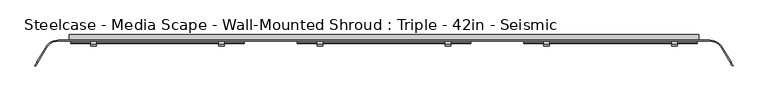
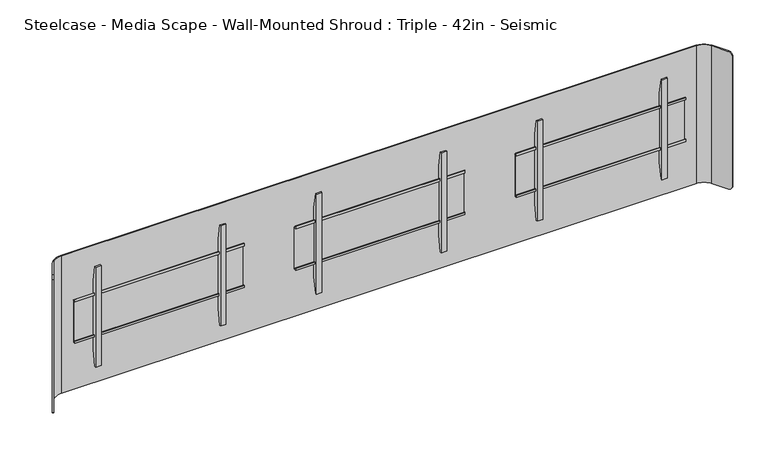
"""IFC4 building model written with IfcOpenShell, lengths in millimetres: furniture geometry, Steelcase - Media Scape - Wall-Mounted Shroud : Triple - 42in - Seismic."""

from ifc_helpers import new_model, si_unit, frame, origin, place, context, project, spatial, polyline, circle_curve, outline, extrude, source, transform, mapped, element, save
from ifc_brep_helpers import plane_surface, cylinder_surface, revolved_surface, advanced_brep


def steelcase_media_scape_wall_mounted_shroud_triple_42in_96fccb2f(model_context):
    return source(origin(), model_context, "Body", "SolidModel", [
        extrude(outline(polyline([(-42.4942785, 1288.4504726), (-42.4942785, 1300.4645649), (-39.8272175, 1300.4645649), (-39.8272175, 1291.117461), (-29.9720009, 1291.117461), (-29.9720009, 1076.7922438), (-42.3164551, 1076.7922438), (-42.3164551, 1087.7142515), (-39.649394, 1087.7142515), (-39.649394, 1079.457052), (-32.6531824, 1079.457052), (-32.6531824, 1288.4504726), (-42.4942785, 1288.4504726)])), frame((653.415, 0.0, 0.0), z_axis=(1.0, 0.0, 0.0), x_axis=(0.0, 1.0, 0.0)), (0.0, 0.0, 1.0), 812.8),
        extrude(outline(polyline([(-32.6531824, 1359.3971148), (-32.6531824, 1007.5825607), (-46.5049349, 929.9546949), (-53.3399828, 929.9546949), (-53.3399828, 1437.9547192), (-46.5050076, 1437.9547192), (-32.6531824, 1359.3971148)])), frame((747.016426, 0.0, 0.0), z_axis=(1.0, 0.0, 0.0), x_axis=(0.0, 1.0, 0.0)), (0.0, 0.0, 1.0), 26.1592872),
        extrude(outline(polyline([(-32.6531824, 1359.3971148), (-32.6531824, 1007.5825607), (-46.5049349, 929.9546949), (-53.3399828, 929.9546949), (-53.3399828, 1437.9547192), (-46.5050076, 1437.9547192), (-32.6531824, 1359.3971148)])), frame((1346.4542868, 0.0, 0.0), z_axis=(1.0, 0.0, 0.0), x_axis=(0.0, 1.0, 0.0)), (0.0, 0.0, 1.0), 26.1592872),
        extrude(outline(polyline([(-42.4942785, 1288.4504726), (-42.4942785, 1300.4645649), (-39.8272175, 1300.4645649), (-39.8272175, 1291.117461), (-29.9720009, 1291.117461), (-29.9720009, 1076.7922438), (-42.3164551, 1076.7922438), (-42.3164551, 1087.7142515), (-39.649394, 1087.7142515), (-39.649394, 1079.457052), (-32.6531824, 1079.457052), (-32.6531824, 1288.4504726), (-42.4942785, 1288.4504726)])), frame((-1466.215, 0.0, 0.0), z_axis=(1.0, 0.0, 0.0), x_axis=(0.0, 1.0, 0.0)), (0.0, 0.0, 1.0), 812.8),
        extrude(outline(polyline([(-32.6531824, 1359.3971148), (-32.6531824, 1007.5825607), (-46.5049349, 929.9546949), (-53.3399828, 929.9546949), (-53.3399828, 1437.9547192), (-46.5050076, 1437.9547192), (-32.6531824, 1359.3971148)])), frame((-773.1757132, 0.0, 0.0), z_axis=(1.0, 0.0, 0.0), x_axis=(0.0, 1.0, 0.0)), (0.0, 0.0, 1.0), 26.1592872),
        extrude(outline(polyline([(-32.6531824, 1359.3971148), (-32.6531824, 1007.5825607), (-46.5049349, 929.9546949), (-53.3399828, 929.9546949), (-53.3399828, 1437.9547192), (-46.5050076, 1437.9547192), (-32.6531824, 1359.3971148)])), frame((-1372.613574, 0.0, 0.0), z_axis=(1.0, 0.0, 0.0), x_axis=(0.0, 1.0, 0.0)), (0.0, 0.0, 1.0), 26.1592872),
        extrude(outline(polyline([(-42.4942785, 1288.4504726), (-42.4942785, 1300.4645649), (-39.8272175, 1300.4645649), (-39.8272175, 1291.117461), (-29.9720009, 1291.117461), (-29.9720009, 1076.7922438), (-42.3164551, 1076.7922438), (-42.3164551, 1087.7142515), (-39.649394, 1087.7142515), (-39.649394, 1079.457052), (-32.6531824, 1079.457052), (-32.6531824, 1288.4504726), (-42.4942785, 1288.4504726)])), frame((-406.4, 0.0, 0.0), z_axis=(1.0, 0.0, 0.0), x_axis=(0.0, 1.0, 0.0)), (0.0, 0.0, 1.0), 812.8),
        extrude(outline(polyline([(-32.6531824, 1359.3971148), (-32.6531824, 1007.5825607), (-46.5049349, 929.9546949), (-53.3399828, 929.9546949), (-53.3399828, 1437.9547192), (-46.5050076, 1437.9547192), (-32.6531824, 1359.3971148)])), frame((286.6392868, 0.0, 0.0), z_axis=(1.0, 0.0, 0.0), x_axis=(0.0, 1.0, 0.0)), (0.0, 0.0, 1.0), 26.1592872),
        extrude(outline(polyline([(-32.6531824, 1359.3971148), (-32.6531824, 1007.5825607), (-46.5049349, 929.9546949), (-53.3399828, 929.9546949), (-53.3399828, 1437.9547192), (-46.5050076, 1437.9547192), (-32.6531824, 1359.3971148)])), frame((-312.798574, 0.0, 0.0), z_axis=(1.0, 0.0, 0.0), x_axis=(0.0, 1.0, 0.0)), (0.0, 0.0, 1.0), 26.1592872),
        extrude(outline(polyline([(1473.2, -25.4), (-1473.2, -25.4), (-1473.2, 0.0), (1473.2, 0.0), (1473.2, -25.4)])), frame((0.0, 0.0, 835.914), z_axis=(0.0, 0.0, 1.0), x_axis=(1.0, 0.0, 0.0)), (0.0, 0.0, 1.0), 76.2508167),
        advanced_brep(
        [(-1580.0086135, -61.722, 1534.414), (-1525.016002, -29.9720009, 1534.414), (1525.016, -29.9720009, 1534.414), (1580.0086135, -61.722, 1534.414), (1620.129586, -131.2135628, 1534.414), (1624.0890541, -128.9275628, 1534.414), (1583.9680817, -59.436, 1534.414), (1525.016002, -25.4, 1534.414), (-1525.016, -25.4, 1534.414), (-1583.9680817, -59.436, 1534.414), (-1624.0921659, -128.9329524, 1534.414), (-1620.1326977, -131.2189524, 1534.414), (-1583.9680817, -59.436, 835.914), (-1525.016002, -25.4, 835.914), (1525.016, -25.4, 835.914), (1583.9680817, -59.436, 835.914), (1624.1406629, -129.0169518, 835.914), (1620.1811948, -131.3029518, 835.914), (1580.0086135, -61.722, 835.914), (1525.016002, -29.9720009, 835.914), (-1525.016, -29.9720009, 835.914), (-1580.0086135, -61.722, 835.914), (-1620.1954014, -131.3275584, 835.914), (-1624.1548695, -129.0415584, 835.914), (-1633.6590632, -145.5033047, 849.5242766), (-1633.6590632, -145.5033047, 1520.4227735), (-1629.6995951, -147.7893047, 1520.4227735), (-1629.6995951, -147.7893047, 849.5242766), (1629.6770866, -147.7503189, 849.4756893), (1629.6770866, -147.7503189, 1520.5433849), (1633.6365547, -145.4643189, 1520.5433849), (1633.6365547, -145.4643189, 849.4756893)],
        [
            (0, 1, circle_curve(frame((-1525.016002, -93.4719991, 1534.414), z_axis=(0.0, 0.0, -1.0), x_axis=(0.0, 1.0, 0.0)), 63.4999981)),
            (1, 2),
            (2, 3, circle_curve(frame((1525.016002, -93.4719991, 1534.414), z_axis=(0.0, 0.0, -1.0), x_axis=(0.0, 1.0, 0.0)), 63.4999981)),
            (3, 4),
            (4, 5),
            (5, 6),
            (6, 7, circle_curve(frame((1525.0160004, -93.472, 1534.414), z_axis=(0.0, 0.0, 1.0), x_axis=(0.0, 1.0, 0.0)), 68.072)),
            (7, 8),
            (8, 9, circle_curve(frame((-1525.0160004, -93.472, 1534.414), z_axis=(0.0, 0.0, 1.0), x_axis=(0.0, 1.0, 0.0)), 68.072)),
            (9, 10),
            (10, 11),
            (11, 0),
            (12, 13, circle_curve(frame((-1525.0160004, -93.472, 835.914), z_axis=(0.0, 0.0, -1.0), x_axis=(0.0, 1.0, 0.0)), 68.072)),
            (13, 14),
            (14, 15, circle_curve(frame((1525.0160004, -93.472, 835.914), z_axis=(0.0, 0.0, -1.0), x_axis=(0.0, 1.0, 0.0)), 68.072)),
            (15, 16),
            (16, 17),
            (17, 18),
            (18, 19, circle_curve(frame((1525.016002, -93.4719991, 835.914), z_axis=(0.0, 0.0, 1.0), x_axis=(0.0, 1.0, 0.0)), 63.4999981)),
            (19, 20),
            (20, 21, circle_curve(frame((-1525.016002, -93.4719991, 835.914), z_axis=(0.0, 0.0, 1.0), x_axis=(0.0, 1.0, 0.0)), 63.4999981)),
            (21, 22),
            (22, 23),
            (23, 12),
            (0, 21),
            (20, 1),
            (8, 13),
            (12, 9),
            (23, 24, circle_curve(frame((-1624.1548695, -129.0415584, 855.9928872), z_axis=(-0.8660254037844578, 0.49999999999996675, 0.0), x_axis=(-0.49999999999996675, -0.8660254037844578, 0.0)), 20.0788872)),
            (24, 25),
            (25, 10, circle_curve(frame((-1624.0921659, -128.9329524, 1514.3351128), z_axis=(-0.866025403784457, 0.49999999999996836, 0.0), x_axis=(-0.49999999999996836, -0.866025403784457, 0.0)), 20.0788872)),
            (26, 25),
            (24, 27),
            (27, 26),
            (11, 26, circle_curve(frame((-1620.1326977, -131.2189524, 1514.3351128), z_axis=(0.866025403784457, -0.49999999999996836, 0.0), x_axis=(-0.49999999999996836, -0.866025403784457, 0.0)), 20.0788872)),
            (27, 22, circle_curve(frame((-1620.1954014, -131.3275584, 855.9928872), z_axis=(0.8660254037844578, -0.49999999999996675, 0.0), x_axis=(-0.49999999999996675, -0.8660254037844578, 0.0)), 20.0788872)),
            (7, 14),
            (19, 2),
            (3, 18),
            (17, 28, circle_curve(frame((1620.1811948, -131.3029518, 855.9928872), z_axis=(-0.8660254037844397, -0.49999999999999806, 0.0), x_axis=(0.49999999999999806, -0.8660254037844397, 0.0)), 20.0788872)),
            (28, 29),
            (29, 4, circle_curve(frame((1620.129586, -131.2135628, 1514.3351128), z_axis=(-0.8660254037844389, -0.49999999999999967, 0.0), x_axis=(0.49999999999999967, -0.8660254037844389, 0.0)), 20.0788872)),
            (30, 29),
            (28, 31),
            (31, 30),
            (15, 6),
            (5, 30, circle_curve(frame((1624.0890541, -128.9275628, 1514.3351128), z_axis=(0.8660254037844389, 0.49999999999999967, 0.0), x_axis=(0.49999999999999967, -0.8660254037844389, 0.0)), 20.0788872)),
            (31, 16, circle_curve(frame((1624.1406629, -129.0169518, 855.9928872), z_axis=(0.8660254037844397, 0.49999999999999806, 0.0), x_axis=(0.49999999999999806, -0.8660254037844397, 0.0)), 20.0788872)),
        ],
        [
            plane_surface(frame((-1525.016002, -29.9720009, 1534.414), z_axis=(0.0, 0.0, 1.0), x_axis=(1.0, 0.0, 0.0))),
            plane_surface(frame((-1525.016002, -29.9720009, 835.914), z_axis=(0.0, 0.0, -1.0), x_axis=(-1.0, 0.0, 0.0))),
            revolved_surface(polyline([(-1525.016002, -29.972001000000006, 835.914), (-1525.016002, -29.972001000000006, 1534.414)]), (-1525.016002, -93.4719991, 835.914), (0.0, 0.0, -1.0)),
            cylinder_surface(frame((-1525.0160004, -93.472, 835.914), z_axis=(0.0, 0.0, 1.0), x_axis=(0.0, 1.0, 0.0)), 68.072),
            plane_surface(frame((-1583.9680817, -59.436, 1534.414), z_axis=(-0.866025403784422, 0.5000000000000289, 0.0), x_axis=(0.0, 0.0, -1.0))),
            plane_surface(frame((-1633.6590632, -145.5033047, 1534.414), z_axis=(-0.5000000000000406, -0.8660254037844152, 0.0), x_axis=(0.0, 0.0, -1.0))),
            plane_surface(frame((-1629.6995951, -147.7893047, 1534.414), z_axis=(0.8660254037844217, -0.5000000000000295, 0.0), x_axis=(0.0, 0.0, -1.0))),
            plane_surface(frame((1525.016, -25.4, 1534.414), z_axis=(0.0, 1.0, 0.0), x_axis=(0.0, 0.0, -1.0))),
            plane_surface(frame((-1525.016, -29.9720009, 1534.414), z_axis=(0.0, -1.0, 0.0), x_axis=(0.0, 0.0, -1.0))),
            plane_surface(frame((1580.0086135, -61.722, 1534.414), z_axis=(-0.8660254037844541, -0.4999999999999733, 0.0), x_axis=(0.0, 0.0, -1.0))),
            plane_surface(frame((1629.6770866, -147.7503189, 1534.414), z_axis=(0.4999999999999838, -0.866025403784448, 0.0), x_axis=(0.0, 0.0, -1.0))),
            plane_surface(frame((1633.6365547, -145.4643189, 1534.414), z_axis=(0.8660254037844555, 0.49999999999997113, 0.0), x_axis=(0.0, 0.0, -1.0))),
            cylinder_surface(frame((1525.0160004, -93.472, 835.914), z_axis=(0.0, 0.0, 1.0), x_axis=(0.0, 1.0, 0.0)), 68.072),
            revolved_surface(polyline([(1525.016002, -29.972001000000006, 835.914), (1525.016002, -29.972001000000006, 1534.414)]), (1525.016002, -93.4719991, 835.914), (0.0, 0.0, -1.0)),
            cylinder_surface(frame((-1620.1326977, -131.2189524, 1514.3351128), z_axis=(0.866025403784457, -0.49999999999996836, 0.0), x_axis=(-0.49999999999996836, -0.866025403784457, 0.0)), 20.0788872),
            cylinder_surface(frame((-1620.1954014, -131.3275584, 855.9928872), z_axis=(0.8660254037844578, -0.49999999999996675, 0.0), x_axis=(-0.49999999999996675, -0.8660254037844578, 0.0)), 20.0788872),
            cylinder_surface(frame((1635.2364297, -122.4916225, 1514.3351128), z_axis=(0.8660254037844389, 0.49999999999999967, 0.0), x_axis=(0.49999999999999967, -0.8660254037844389, 0.0)), 20.0788872),
            cylinder_surface(frame((1632.4289695, -124.2316958, 855.9928872), z_axis=(0.8660254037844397, 0.49999999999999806, 0.0), x_axis=(0.49999999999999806, -0.8660254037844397, 0.0)), 20.0788872),
        ],
        [
            (0, [[1, 2, 3, 4, 5, 6, 7, 8, 9, 10, 11, 12]]),
            (1, [[13, 14, 15, 16, 17, 18, 19, 20, 21, 22, 23, 24]]),
            (2, [[-1, 25, -21, 26]]),
            (3, [[-9, 27, -13, 28]]),
            (4, [[-28, -24, 29, 30, 31, -10]]),
            (5, [[32, -30, 33, 34]]),
            (6, [[-25, -12, 35, -34, 36, -22]]),
            (7, [[-8, 37, -14, -27]]),
            (8, [[-2, -26, -20, 38]]),
            (9, [[39, -18, 40, 41, 42, -4]]),
            (10, [[43, -41, 44, 45]]),
            (11, [[46, -6, 47, -45, 48, -16]]),
            (12, [[-7, -46, -15, -37]]),
            (13, [[-3, -38, -19, -39]]),
            (14, [[-11, -31, -32, -35]]),
            (15, [[-23, -36, -33, -29]]),
            (16, [[-5, -42, -43, -47]]),
            (17, [[-17, -48, -44, -40]]),
        ],
    ),
        extrude(outline(polyline([(912.1648167, 1409.6999879), (912.1648167, 1473.2), (1458.214, 1473.2), (1458.214, -1473.2), (912.1648167, -1473.2), (912.1648167, -1410.6933465), (1394.7139516, -1410.6933465), (1394.7139516, 1409.6999879), (912.1648167, 1409.6999879)])), frame((0.0, -25.4, 0.0), z_axis=(0.0, 1.0, 0.0), x_axis=(0.0, 0.0, 1.0)), (0.0, 0.0, 1.0), 25.4),
    ])


if __name__ == "__main__":
    model = new_model("IFC4")
    model_context = context("Model", 3, world=origin())
    ifc_project = project(units=[si_unit("LENGTHUNIT", "METRE", prefix="MILLI")], contexts=[model_context])
    site = spatial("IfcSite", under=ifc_project)
    building = spatial("IfcBuilding", under=site)
    placement = place(None, origin())
    steelcase_media_scape_wall_mounted_shroud_triple_42in_shape = steelcase_media_scape_wall_mounted_shroud_triple_42in_96fccb2f(model_context)
    element("IfcFurniture", 1, ObjectType="Steelcase - Media Scape - Wall-Mounted Shroud : Triple - 42in - Seismic", at=placement, inside=building, context=model_context, shape_type="MappedRepresentation", body=[
        mapped(steelcase_media_scape_wall_mounted_shroud_triple_42in_shape, transform((0.0, 0.0, 0.0), x_axis=(1.0, 0.0, 0.0), y_axis=(0.0, 1.0, 0.0), z_axis=(0.0, 0.0, 1.0))),
    ])
    save(model, "model.ifc")
